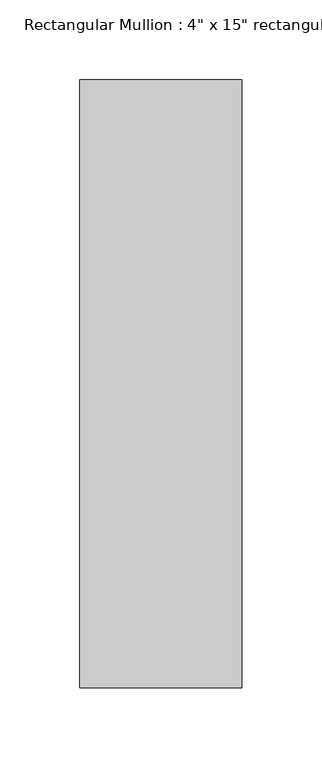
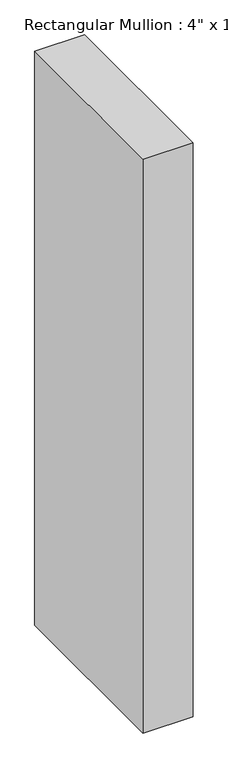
"""IFC4 building model written with IfcOpenShell, lengths in millimetres: member geometry."""

from ifc_helpers import new_model, si_unit, frame, origin, place, context, project, spatial, polyline, outline, extrude, source, transform, mapped, element, save


def member_101db8d1(model_context):
    return source(origin(), model_context, "Body", "SweptSolid", [
        extrude(outline(polyline([(0.0, 63.5), (0.0, -317.5), (-101.6, -317.5), (-101.6, 63.5), (0.0, 63.5)])), frame((0.0, 0.0, -1231.9), z_axis=(0.0, 0.0, 1.0), x_axis=(1.0, 0.0, 0.0)), (0.0, 0.0, 1.0), 1231.9),
    ])


if __name__ == "__main__":
    model = new_model("IFC4")
    model_context = context("Model", 3, world=origin())
    ifc_project = project(units=[si_unit("LENGTHUNIT", "METRE", prefix="MILLI")], contexts=[model_context])
    site = spatial("IfcSite", under=ifc_project)
    building = spatial("IfcBuilding", under=site)
    placement = place(None, origin())
    member_shape = member_101db8d1(model_context)
    element("IfcMember", 1, ObjectType="Rectangular Mullion : 4\" x 15\" rectangular", at=placement, inside=building, context=model_context, shape_type="MappedRepresentation", body=[
        mapped(member_shape, transform((0.0, 0.0, 0.0), x_axis=(1.0, 0.0, 0.0), y_axis=(0.0, 1.0, 0.0), z_axis=(0.0, 0.0, 1.0))),
    ])
    save(model, "model.ifc")
